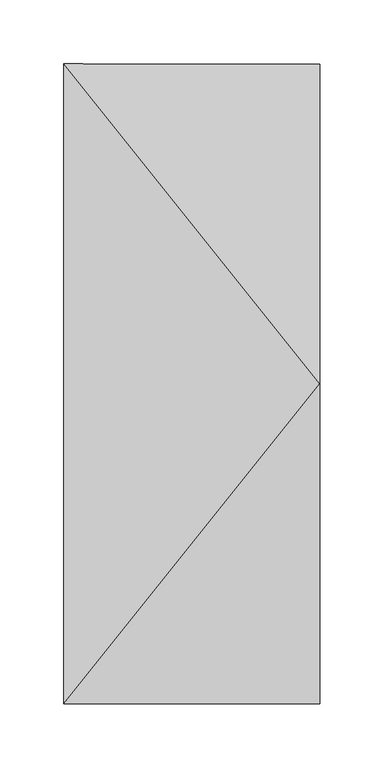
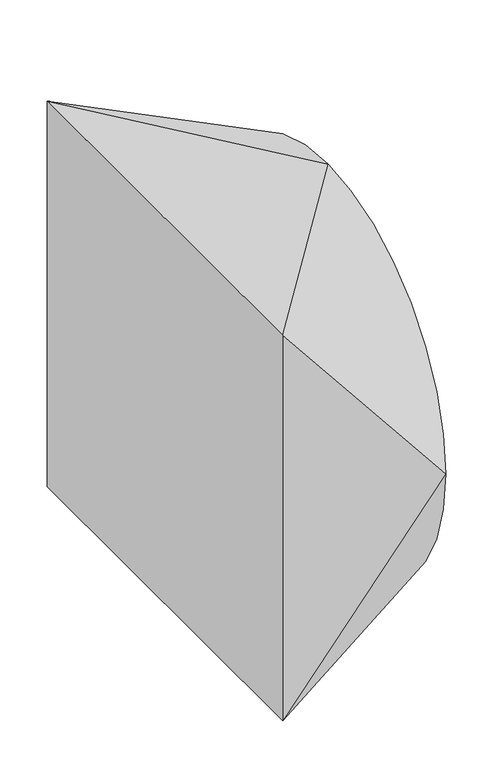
"""IFC4 building model written with IfcOpenShell, lengths in millimetres: duct fitting geometry, ADSK_ПереходникВоздуховодов_КруглыйНаПрямоугольный : Стандарт."""

from ifc_helpers import new_model, si_unit, frame, origin, place, context, project, spatial, circle_curve, source, transform, mapped, element, save
from ifc_brep_helpers import plane_surface, spline_surface, advanced_brep


def duct_fitting_45a1d30f(model_context):
    return source(origin(), model_context, "Body", "AdvancedBrep", [
        advanced_brep(
        [(200.0, 0.0, 250.000645), (200.0, -250.0, 0.000645), (200.0, 0.0, -249.999355), (200.0, 250.0, 0.000645), (0.0, -250.0, 250.0), (0.0, 250.0, 250.0), (0.0, 250.0, -250.0), (0.0, -250.0, -250.0)],
        [
            (0, 1, circle_curve(frame((200.0, 0.0, 0.000645), z_axis=(1.0, 0.0, 0.0), x_axis=(0.0, 1.0, 0.0)), 250.0)),
            (1, 2, circle_curve(frame((200.0, 0.0, 0.000645), z_axis=(1.0, 0.0, 0.0), x_axis=(0.0, 1.0, 0.0)), 250.0)),
            (2, 3, circle_curve(frame((200.0, 0.0, 0.000645), z_axis=(1.0, 0.0, 0.0), x_axis=(0.0, 1.0, 0.0)), 250.0)),
            (3, 0, circle_curve(frame((200.0, 0.0, 0.000645), z_axis=(1.0, 0.0, 0.0), x_axis=(0.0, 1.0, 0.0)), 250.0)),
            (4, 5),
            (5, 6),
            (6, 7),
            (7, 4),
            (0, 4),
            (4, 1),
            (7, 1),
            (7, 2),
            (6, 2),
            (6, 3),
            (5, 3),
            (5, 0),
        ],
        [
            plane_surface(frame((200.0, 0.0, 0.000645), z_axis=(1.0, 0.0, 0.0), x_axis=(0.0, 0.0, -1.0))),
            plane_surface(frame((0.0, 0.0, 0.0), z_axis=(-1.0, 0.0, 0.0), x_axis=(0.0, 0.0, -1.0))),
            spline_surface(2, 1, [[(0.0, -250.0, 250.0), (200.0, 0.0, 250.000645)], [(0.0, -250.0, 250.0), (200.0, -250.0, 250.000645)], [(0.0, -250.0, 250.0), (200.0, -250.0, 0.000645)]], [3, 3], [2, 2], [0.0, 1.0], [0.0, 1.0], weights=[[1.0, 1.0], [0.7071067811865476, 0.7071067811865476], [1.0, 1.0]]),
            plane_surface(frame((0.0, -250.0, 0.0), z_axis=(0.0, -1.0, 0.0), x_axis=(0.0, 0.0, -1.0))),
            spline_surface(2, 1, [[(0.0, -250.0, -250.0), (200.0, -250.0, 0.000645)], [(0.0, -250.0, -250.0), (200.0, -250.0, -249.999355)], [(0.0, -250.0, -250.0), (200.0, 0.0, -249.999355)]], [3, 3], [2, 2], [0.0, 1.0], [0.0, 1.0], weights=[[1.0, 1.0], [0.7071067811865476, 0.7071067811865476], [1.0, 1.0]]),
            plane_surface(frame((0.0, 0.0, -250.0), z_axis=(3.2247851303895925e-06, 0.0, -0.9999999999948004), x_axis=(0.0, 1.0, 0.0))),
            spline_surface(2, 1, [[(0.0, 250.0, -250.0), (200.0, 0.0, -249.999355)], [(0.0, 250.0, -250.0), (200.0, 250.0, -249.999355)], [(0.0, 250.0, -250.0), (200.0, 250.0, 0.000645)]], [3, 3], [2, 2], [0.0, 1.0], [0.0, 1.0], weights=[[1.0, 1.0], [0.7071067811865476, 0.7071067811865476], [1.0, 1.0]]),
            plane_surface(frame((0.0, 250.0, 0.0), z_axis=(0.0, 1.0, 0.0), x_axis=(0.0, 0.0, 1.0))),
            spline_surface(2, 1, [[(0.0, 250.0, 250.0), (200.0, 250.0, 0.000645)], [(0.0, 250.0, 250.0), (200.0, 250.0, 250.000645)], [(0.0, 250.0, 250.0), (200.0, 0.0, 250.000645)]], [3, 3], [2, 2], [0.0, 1.0], [0.0, 1.0], weights=[[1.0, 1.0], [0.7071067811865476, 0.7071067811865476], [1.0, 1.0]]),
            plane_surface(frame((0.0, 0.0, 250.0), z_axis=(-3.2247851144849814e-06, 0.0, 0.9999999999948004), x_axis=(0.0, -1.0, 0.0))),
        ],
        [
            (0, [[1, 2, 3, 4]]),
            (1, [[5, 6, 7, 8]]),
            (2, [[-1, 9, 10]]),
            (3, [[-8, 11, -10]]),
            (4, [[-2, -11, 12]]),
            (5, [[-7, 13, -12]]),
            (6, [[-3, -13, 14]]),
            (7, [[-6, 15, -14]]),
            (8, [[-4, -15, 16]]),
            (9, [[-5, -9, -16]]),
        ],
    ),
    ])


if __name__ == "__main__":
    model = new_model("IFC4")
    model_context = context("Model", 3, world=origin())
    ifc_project = project(units=[si_unit("LENGTHUNIT", "METRE", prefix="MILLI")], contexts=[model_context])
    site = spatial("IfcSite", under=ifc_project)
    building = spatial("IfcBuilding", under=site)
    placement = place(None, origin())
    duct_fitting_shape = duct_fitting_45a1d30f(model_context)
    element("IfcDuctFitting", 1, ObjectType="ADSK_ПереходникВоздуховодов_КруглыйНаПрямоугольный : Стандарт", at=placement, inside=building, context=model_context, shape_type="MappedRepresentation", body=[
        mapped(duct_fitting_shape, transform((0.0, 0.0, 0.0), x_axis=(1.0, 0.0, 0.0), y_axis=(0.0, 1.0, 0.0), z_axis=(0.0, 0.0, 1.0))),
    ])
    save(model, "model.ifc")
